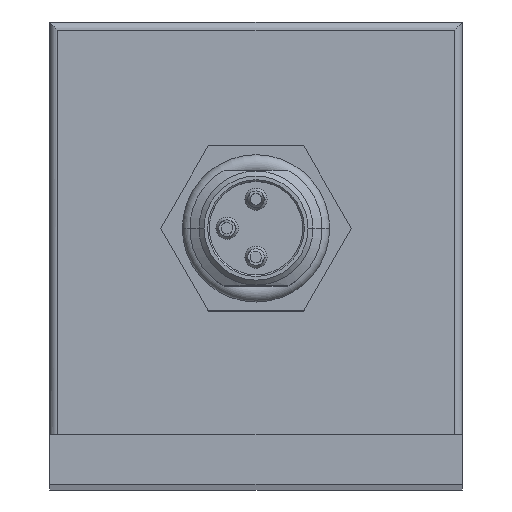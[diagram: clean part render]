
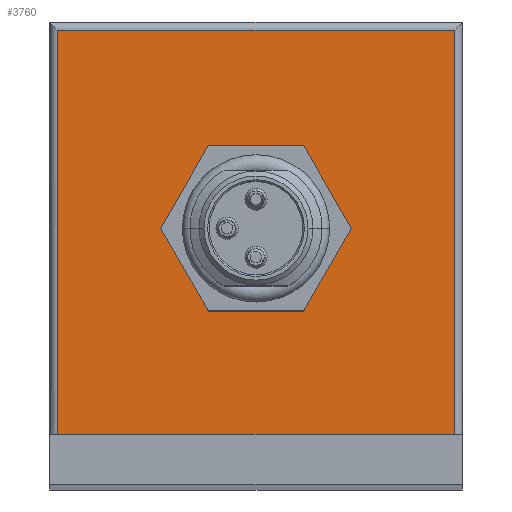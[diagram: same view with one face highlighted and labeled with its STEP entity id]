
A CAD part, top view. The second image highlights one B-rep face of the part: STEP entity #3760.
In plain terms, the highlighted planar face has unit normal (0, 0, 1) as drawn and (-1, 0, 0) by its records, which use the part's own axes.
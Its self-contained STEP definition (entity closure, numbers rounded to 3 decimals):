
#65 = DIRECTION ( 'NONE',  ( 0., 0., -1. ) ) ;
#102 = CARTESIAN_POINT ( 'NONE',  ( 10., 28., 0. ) ) ;
#374 = ORIENTED_EDGE ( 'NONE', *, *, #1894, .T. ) ;
#413 = DIRECTION ( 'NONE',  ( 1., 0., 0. ) ) ;
#484 = CARTESIAN_POINT ( 'NONE',  ( 10., 27.5, -24.5 ) ) ;
#581 = CARTESIAN_POINT ( 'NONE',  ( 10., 3., -0.5 ) ) ;
#621 = EDGE_CURVE ( 'NONE', #3146, #1534, #1926, .T. ) ;
#774 = VECTOR ( 'NONE', #1616, 1000. ) ;
#1016 = CARTESIAN_POINT ( 'NONE',  ( 10., 27.5, 0. ) ) ;
#1208 = CARTESIAN_POINT ( 'NONE',  ( 10., 3., -24.5 ) ) ;
#1253 = ORIENTED_EDGE ( 'NONE', *, *, #2790, .T. ) ;
#1259 = EDGE_LOOP ( 'NONE', ( #2801, #1601, #1253, #374 ) ) ;
#1339 = LINE ( 'NONE', #1016, #1435 ) ;
#1371 = FACE_OUTER_BOUND ( 'NONE', #1259, .T. ) ;
#1435 = VECTOR ( 'NONE', #2645, 1000. ) ;
#1534 = VERTEX_POINT ( 'NONE', #1208 ) ;
#1556 = VERTEX_POINT ( 'NONE', #581 ) ;
#1601 = ORIENTED_EDGE ( 'NONE', *, *, #621, .T. ) ;
#1616 = DIRECTION ( 'NONE',  ( 0., -1., 0. ) ) ;
#1665 = VERTEX_POINT ( 'NONE', #4048 ) ;
#1853 = EDGE_CURVE ( 'NONE', #1665, #3146, #1339, .T. ) ;
#1894 = EDGE_CURVE ( 'NONE', #1556, #1665, #1969, .T. ) ;
#1926 = LINE ( 'NONE', #2292, #774 ) ;
#1966 = DIRECTION ( 'NONE',  ( 0., 0., 1. ) ) ;
#1969 = LINE ( 'NONE', #3567, #3026 ) ;
#2005 = DIRECTION ( 'NONE',  ( 0., 1., 0. ) ) ;
#2266 = CARTESIAN_POINT ( 'NONE',  ( 10., 3., 0. ) ) ;
#2292 = CARTESIAN_POINT ( 'NONE',  ( 10., 28., -24.5 ) ) ;
#2540 = LINE ( 'NONE', #2266, #3435 ) ;
#2645 = DIRECTION ( 'NONE',  ( 0., 0., -1. ) ) ;
#2790 = EDGE_CURVE ( 'NONE', #1534, #1556, #2540, .T. ) ;
#2801 = ORIENTED_EDGE ( 'NONE', *, *, #1853, .T. ) ;
#3026 = VECTOR ( 'NONE', #2005, 1000. ) ;
#3071 = AXIS2_PLACEMENT_3D ( 'NONE', #102, #413, #65 ) ;
#3146 = VERTEX_POINT ( 'NONE', #484 ) ;
#3435 = VECTOR ( 'NONE', #1966, 1000. ) ;
#3567 = CARTESIAN_POINT ( 'NONE',  ( 10., 28., -0.5 ) ) ;
#3589 = PLANE ( 'NONE',  #3071 ) ;
#3760 = ADVANCED_FACE ( 'NONE', ( #1371 ), #3589, .F. ) ;
#4048 = CARTESIAN_POINT ( 'NONE',  ( 10., 27.5, -0.5 ) ) ;
